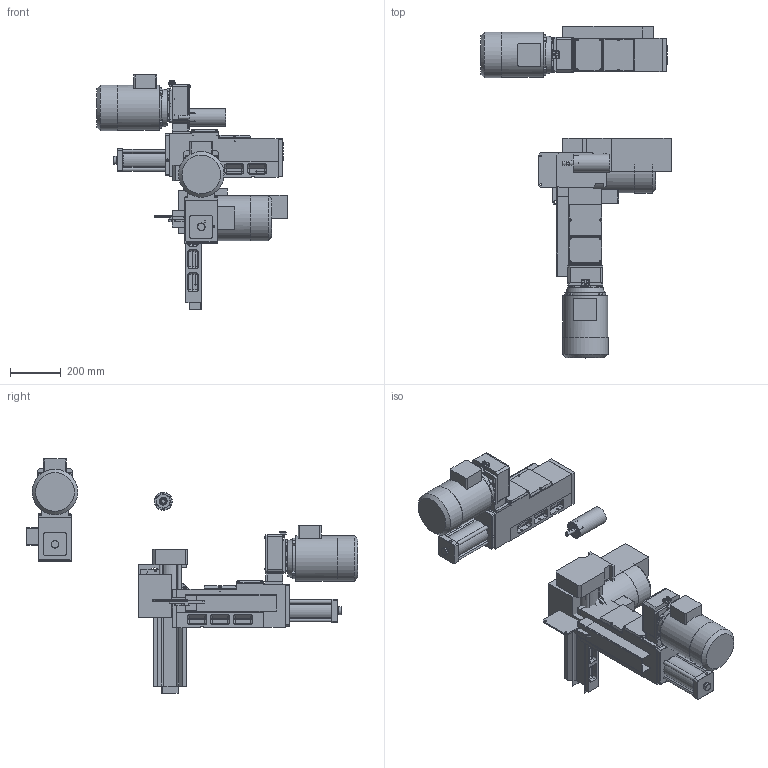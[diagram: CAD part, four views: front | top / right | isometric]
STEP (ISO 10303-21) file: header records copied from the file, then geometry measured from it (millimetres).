
FILE_DESCRIPTION( ( 'STEP AP203' ), '1' );
FILE_NAME( 'C:/Documents and Settings/Saverio/Desktop/disegni ironcad/unità serie 2/F218 (ex F222)/F 218_A01_P.stp', '2013-12-10T17:14:49', ( ' ' ), ( ' ' ), 'XStep 1.0', ' ', ' ' );
FILE_SCHEMA( ( 'CONFIG_CONTROL_DESIGN' ) );
Length unit declared in the file: metre
Products named in the file (41): Assem1; Assem2; Assem3; 1; 2; 3; 4; 5; 6; 7; 8; 9; 10; 11; 12; 13; 14; 15; 16; 17; 18; 19; 20; 21; 22; 23; 24; 25; 26; 27; 28; 29; 30; 31; 32; 33; 34; 35; 36; 37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
Bounding box: 746.57 x 1302.73 x 919.21 mm (x, y, z)
Volume: 48272869.1 mm3; surface area: 4319464.5 mm2
Topology: 114 solids, 114 shells, 2976 faces, 6858 edges, 4128 vertices
Faces by surface type: plane 1608, cylinder 780, cone 390, bspline 108, sphere 60, torus 30
Full cylindrical faces by diameter (mm): 5 x39, 5.5 x21, 6 x6, 6.5 x18, 6.637 x15, 6.647 x12, 8.385 x3, 8.5 x36, 8.75 x18, 10.25 x6, 18 x9, 20 x3, 24 x3, 27.5 x3, 30 x9, 31.2 x3, 52 x3, 53 x3, 54 x6, 70 x6, 76 x3, 80 x9, 95 x3, 177.21 x3, 179 x3
Entity records: 30115 total; most frequent: CARTESIAN_POINT 7242, DIRECTION 4395, ORIENTED_EDGE 3988, EDGE_CURVE 1994, AXIS2_PLACEMENT_3D 1611, VERTEX_POINT 1330, EDGE_LOOP 1286, LINE 1173
